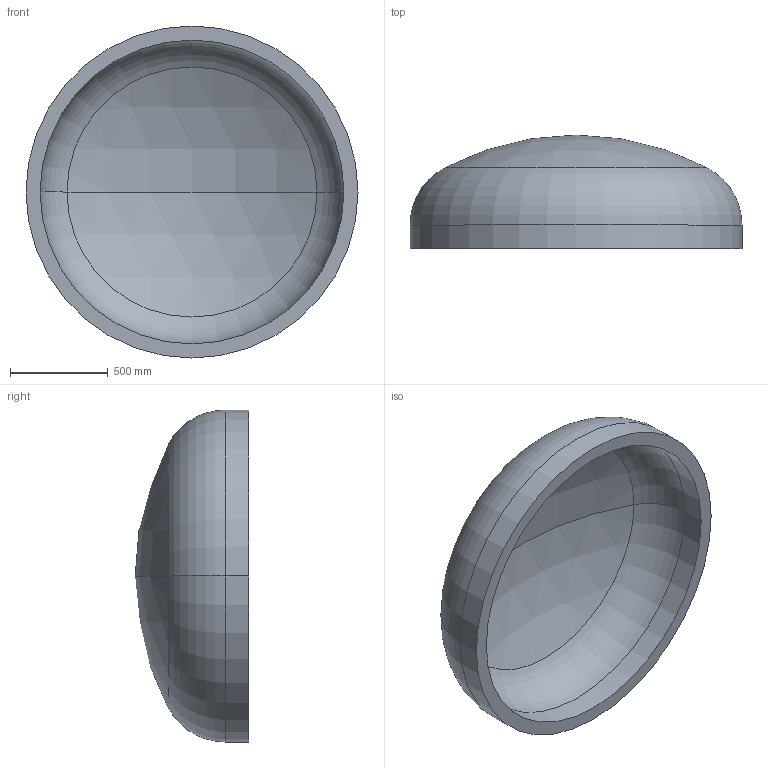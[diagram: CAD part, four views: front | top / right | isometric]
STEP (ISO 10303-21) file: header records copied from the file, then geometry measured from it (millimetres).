
FILE_DESCRIPTION (( 'STEP AP203' ), '1' );
FILE_NAME ('DIN 28013 Korbbogenform_-_Boden DIN 28013 - 1700 x 120 - I - s=72.step', '2016-07-01T12:00:12', ( '' ), ( '' ), 'SwSTEP 2.0', 'SolidWorks 2013', '' );
FILE_SCHEMA (( 'CONFIG_CONTROL_DESIGN' ));
Length unit declared in the file: millimetre
Products named in the file (1): DIN 28013 Korbbogenform_-_Boden DIN 28013 - 1700 x 120 - I - s=72
Bounding box: 1700 x 581.6 x 1700 mm (x, y, z)
Volume: 258168767.9 mm3; surface area: 7550455 mm2
Topology: 1 solids, 1 shells, 13 faces, 24 edges, 14 vertices
Faces by surface type: torus 4, cylinder 4, sphere 4, plane 1
Entity records: 407 total; most frequent: DIRECTION 72, CARTESIAN_POINT 52, ORIENTED_EDGE 48, AXIS2_PLACEMENT_3D 34, EDGE_CURVE 24, CIRCLE 20, VERTEX_POINT 14, EDGE_LOOP 14
